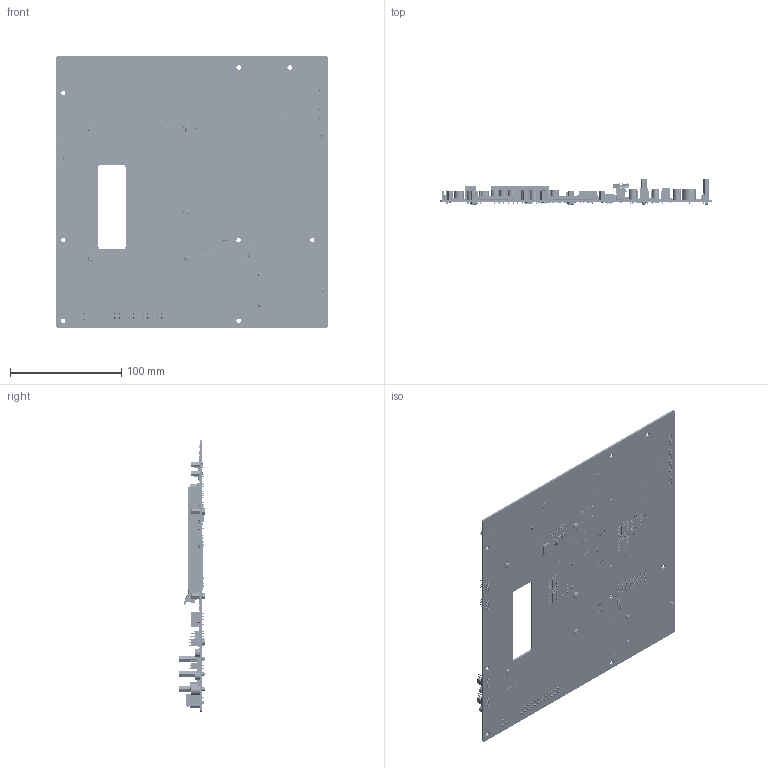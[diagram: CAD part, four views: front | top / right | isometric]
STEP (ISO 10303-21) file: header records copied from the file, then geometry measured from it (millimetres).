
FILE_DESCRIPTION((''),'2;1');
FILE_NAME('0-EEV-EX26_ASM','2024-11-19T17:38:33',('isaac_lin'),(''),'CREO PARAMETRIC BY PTC INC, 2023294','CREO PARAMETRIC BY PTC INC, 2023294','');
FILE_SCHEMA(('CONFIG_CONTROL_DESIGN'));
Products named in the file (86): EEV-EX26_PCB; C-126-X_ANY_3; C-126-2_ANY_3; T-1G2-X_ANY_3; QSE-XX-D_FORMULA_ANY_3; QSE-040-01-X-D_ANY_ASM_5_ASM; _QSE-040-01-X-D_3; E1671440220H_ASM_2_ASM; E193A3601X0R; E193A231161R; E14S3722700H; E14S3364200H; E1060700002H; E1213009005H; E14S0230500H; E14S3157501H; E14S4888300H; E14S4041202H; E0030000000; E131411171AH; E14S4961700H; E14S0085100H; E14S4878600H; E1315700214H; E1301055140R; E1613520000R; 0030000033; E1660210201H; E1755100003R; 0030000030; E0030100001; A-R0603; E1213103000H; E1213102210H; E130550944KH; A-R0402; E1212206813H; E1213108003H; E1213103001H; E1183610723H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
Assembly tree (1338 placements, depth 4):
  0-EEV-EX26_ASM
    EEV-EX26_PCB
    E1671440220H_ASM_2_ASM  x3
      QSE-040-01-X-D_ANY_ASM_5_ASM
        C-126-X_ANY_3  x40
        C-126-2_ANY_3  x40
        T-1G2-X_ANY_3  x2
        QSE-XX-D_FORMULA_ANY_3
      _QSE-040-01-X-D_3
    E193A3601X0R  x7
    E193A231161R  x4
    EEV-EX26_M_ASM
      E14S3722700H  x2
      E14S3364200H
      E1060700002H  x4
      E1213009005H  x4
      E14S0230500H
      E14S3157501H  x5
      E14S4888300H
      E14S4041202H  x12
      E0030000000  x25
      E131411171AH  x2
      E14S4961700H  x4
      E14S0085100H
      E14S4878600H
      E1315700214H
      E1301055140R  x3
      E1613520000R  x2
      0030000033  x7
      E1660210201H
      E1755100003R
      0030000030
      E0030100001
      A-R0603  x34
      E1213103000H  x8
      E1213102210H  x4
      E130550944KH
      A-R0402  x614
      E1212206813H
      E1213108003H
      E1213103001H  x5
      E1183610723H  x6
      E1186610730H  x4
      E1181656720H  x8
      E1183627722H  x5
      E1304100040H
      E1301014040H  x4
      A-C0603  x61
      A-C0805  x32
      A-C0402  x286
      E1614310000R  x2
      E1315233310H  x2
      E1315013814H  x12
      E1315700210H  x8
      E1667220301R
      E14S9069200H
      E14S5F10700H
      E14S5C10801H  x3
      E1662510201H
      E14S3355300H  x2
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Bounding box: 243.84 x 23 x 243.84 mm (x, y, z)
Volume: 131878.1 mm3; surface area: 185024.9 mm2
Topology: 1531 solids, 1558 shells, 46122 faces, 148334 edges, 122112 vertices
Faces by surface type: plane 37703, cylinder 7037, extrusion 653, bspline 648, cone 43, torus 34, sphere 4
Entity records: 740779 total; most frequent: CARTESIAN_POINT 143502, DIRECTION 129450, ORIENTED_EDGE 100980, VECTOR 59614, LINE 59473, EDGE_CURVE 50533, AXIS2_PLACEMENT_3D 34918, VERTEX_POINT 32328
